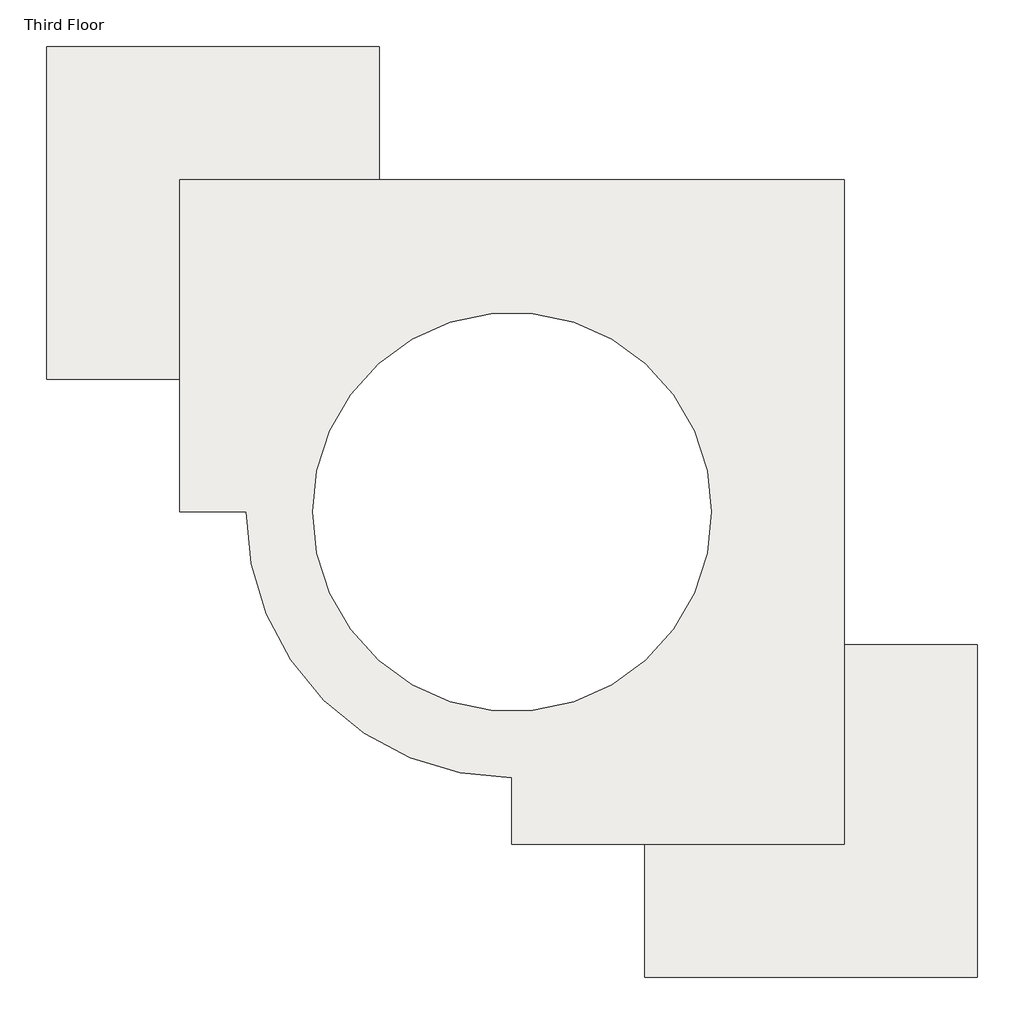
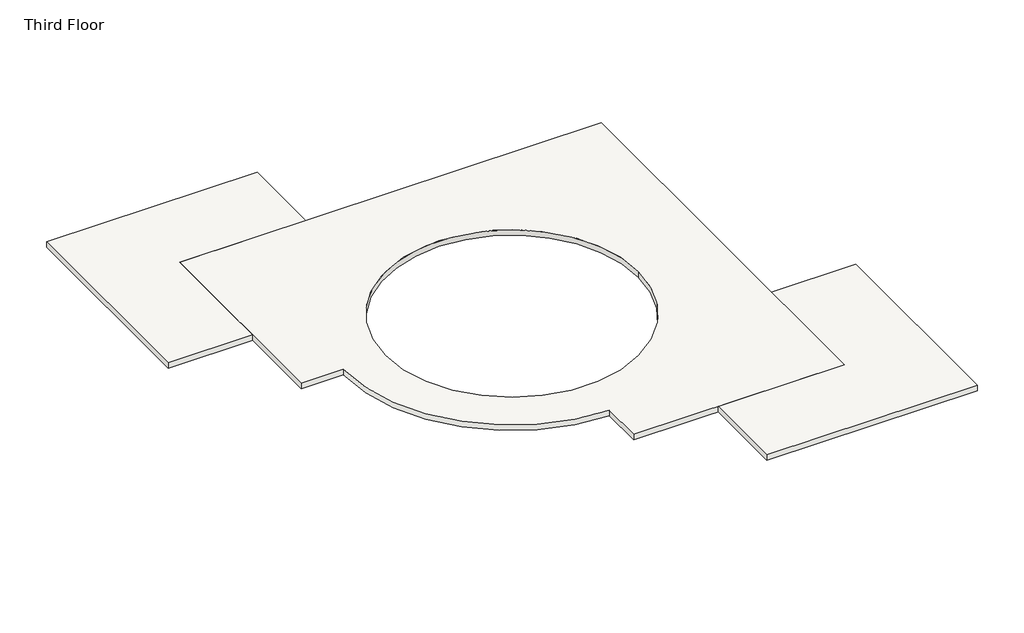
# One storey: 2 slabs.
"""IFC4 building model written with IfcOpenShell, lengths in millimetres."""

import ifcopenshell
import ifcopenshell.guid

model = None  # the IFC model being written
_history = None  # IfcOwnerHistory: only IFC2X3 demands one
_inside = {}  # id of a spatial element -> (the spatial element, [elements in it])
_under = {}  # id of a project, library or spatial element -> (it, [spatial elements below it])
_declared = {}  # id of a project -> (the project, [libraries it declares])
_typed = {}  # id of a type object -> (the type object, [elements of that type])
_made_of = {}  # id of a material, layer set ... -> (it, [elements and type objects made of it])


def new_model(schema):
    """Start an empty IFC model of exactly this schema.

    Asked for "IFC4X3", IfcOpenShell would pick the latest addendum, in which some entities
    have other attributes; the version numbers below select the first issue.
    IFC2X3 requires an IfcOwnerHistory on every rooted entity: one is made here for all.
    """
    global model, _history
    if schema == "IFC4X3":
        model = ifcopenshell.file(schema_version=(4, 3, 0, 0))
    else:
        model = ifcopenshell.file(schema=schema)
    _inside.clear()
    _under.clear()
    _declared.clear()
    _typed.clear()
    _made_of.clear()
    _history = None
    if model.schema == "IFC2X3":
        org = make("IfcOrganization", Name="unknown")
        user = make(
            "IfcPersonAndOrganization",
            ThePerson=make("IfcPerson", FamilyName="unknown"),
            TheOrganization=org,
        )
        app = make(
            "IfcApplication",
            ApplicationDeveloper=org,
            Version="unknown",
            ApplicationFullName="unknown",
            ApplicationIdentifier="unknown",
        )
        _history = make(
            "IfcOwnerHistory",
            OwningUser=user,
            OwningApplication=app,
            ChangeAction="ADDED",
            CreationDate=0,
        )
    return model


def make(cls, **values):
    """One entity of the class cls with the attributes given. An attribute that is None is left unset."""
    return model.create_entity(
        cls, **{name: value for name, value in values.items() if value is not None}
    )


def rooted(cls, **values):
    """An entity with a GlobalId (a new one), such as an element, a storey or a relation."""
    return make(cls, GlobalId=ifcopenshell.guid.new(), OwnerHistory=_history, **values)


def si_unit(unit_type, name, prefix=None):
    """IfcSIUnit, for example si_unit("LENGTHUNIT", "METRE", prefix="MILLI")."""
    return make("IfcSIUnit", UnitType=unit_type, Prefix=prefix, Name=name)


def assignment(units):
    """IfcUnitAssignment: the units of a project."""
    return None if units is None else make("IfcUnitAssignment", Units=units)


def point(xyz):
    """IfcCartesianPoint."""
    return None if xyz is None else make("IfcCartesianPoint", Coordinates=xyz)


def direction(xyz):
    """IfcDirection."""
    return None if xyz is None else make("IfcDirection", DirectionRatios=xyz)


def frame(location, z_axis=None, x_axis=None):
    """IfcAxis2Placement3D, a coordinate frame: its origin and axes. An axis left out is left unset."""
    return make(
        "IfcAxis2Placement3D",
        Location=point(location),
        Axis=direction(z_axis),
        RefDirection=direction(x_axis),
    )


def frame_2d(location, x_axis=None):
    """IfcAxis2Placement2D, a coordinate frame in the plane: its origin and x axis."""
    return make(
        "IfcAxis2Placement2D", Location=point(location), RefDirection=direction(x_axis)
    )


def origin():
    """The frame at (0, 0, 0) with its axes left unset."""
    return frame((0.0, 0.0, 0.0))


def place(relative_to, where):
    """IfcLocalPlacement: puts the frame where relative to a parent placement (None: the world)."""
    return make(
        "IfcLocalPlacement", PlacementRelTo=relative_to, RelativePlacement=where
    )


def context(
    kind, dimensions, precision=None, world=None, true_north=None, identifier=None
):
    """IfcGeometricRepresentationContext, for example the 3D "Model" context."""
    return make(
        "IfcGeometricRepresentationContext",
        ContextIdentifier=identifier,
        ContextType=kind,
        CoordinateSpaceDimension=dimensions,
        Precision=precision,
        WorldCoordinateSystem=world,
        TrueNorth=true_north,
    )


def project(units=None, contexts=None):
    """IfcProject with its units and contexts."""
    return rooted(
        "IfcProject",
        Name="project",
        RepresentationContexts=contexts,
        UnitsInContext=assignment(units),
    )


def spatial(cls, under=None, at=None, **own):
    """A site, building, storey or space (cls), placed at a placement, below another one or the project."""
    s = rooted(cls, ObjectPlacement=at, **own)
    if under is not None:
        _under.setdefault(under.id(), (under, []))[1].append(s)
    return s


def polyline(points):
    """IfcPolyline through the points."""
    return make("IfcPolyline", Points=[point(p) for p in points])


def circle_curve(where, radius):
    """IfcCircle in the frame where."""
    return make("IfcCircle", Position=where, Radius=radius)


def trimmed(basis, trim1, trim2, sense, master):
    """IfcTrimmedCurve: the piece of a basis curve between two trims."""
    return make(
        "IfcTrimmedCurve",
        BasisCurve=basis,
        Trim1=trim1,
        Trim2=trim2,
        SenseAgreement=sense,
        MasterRepresentation=master,
    )


def segment(curve, same_sense, transition):
    """IfcCompositeCurveSegment."""
    return make(
        "IfcCompositeCurveSegment",
        Transition=transition,
        SameSense=same_sense,
        ParentCurve=curve,
    )


def composite_curve(segments, self_intersect=None):
    """IfcCompositeCurve: segments joined end to end."""
    return make("IfcCompositeCurve", Segments=segments, SelfIntersect=self_intersect)


def outline(outer, holes=None, kind="AREA"):
    """IfcArbitraryClosedProfileDef: a profile drawn as a closed curve; with holes, ...WithVoids."""
    if holes is None:
        return make("IfcArbitraryClosedProfileDef", ProfileType=kind, OuterCurve=outer)
    return make(
        "IfcArbitraryProfileDefWithVoids",
        ProfileType=kind,
        OuterCurve=outer,
        InnerCurves=holes,
    )


def extrude(swept, where, along, depth):
    """IfcExtrudedAreaSolid: the profile swept, set in the frame where, extruded along a direction by depth."""
    return make(
        "IfcExtrudedAreaSolid",
        SweptArea=swept,
        Position=where,
        ExtrudedDirection=direction(along),
        Depth=depth,
    )


def shape(context_of_items, identifier, shape_type, items):
    """IfcShapeRepresentation: the items that make up one representation, for example the "Body"."""
    return make(
        "IfcShapeRepresentation",
        ContextOfItems=context_of_items,
        RepresentationIdentifier=identifier,
        RepresentationType=shape_type,
        Items=items,
    )


def made_of(thing, what):
    """Note that an element or type object is made of a material, layer set ...; save() writes the relation."""
    if what is not None:
        _made_of.setdefault(what.id(), (what, []))[1].append(thing)
    return thing


def element(
    cls,
    number,
    at=None,
    inside=None,
    cuts=None,
    type_object=None,
    material=None,
    context=None,
    identifier="Body",
    shape_type=None,
    held_by="IfcProductDefinitionShape",
    body=None,
    shapes=None,
    **own,
):
    """One element of the class cls, such as IfcWall. Its Tag is "e" and its number.

    at: its placement. inside: the storey or other place that contains it. cuts: it is an
    opening in that element (IfcRelVoidsElement). A single representation is given by context,
    identifier, shape_type and body (its items); several are given by shapes. held_by: the class
    of the entity that holds the representations. save() writes the other relations.
    """
    e = rooted(cls, Tag="e%d" % number, ObjectPlacement=at, **own)
    if body is not None:
        shapes = [shape(context, identifier, shape_type, body)]
    if shapes is not None:
        e.Representation = make(held_by, Representations=shapes)
    if inside is not None:
        _inside.setdefault(inside.id(), (inside, []))[1].append(e)
    if cuts is not None:
        rooted(
            "IfcRelVoidsElement", RelatingBuildingElement=cuts, RelatedOpeningElement=e
        )
    if type_object is not None:
        _typed.setdefault(type_object.id(), (type_object, []))[1].append(e)
    return made_of(e, material)


def aggregate(whole, parts):
    """IfcRelAggregates: a whole, such as a stair, and the parts it consists of."""
    return rooted("IfcRelAggregates", RelatingObject=whole, RelatedObjects=parts)


def save(model, path):
    """Write the relations noted so far, then the file.

    IfcRelAggregates (storeys below a building ...), IfcRelContainedInSpatialStructure (elements
    in a storey), IfcRelDefinesByType, IfcRelAssociatesMaterial and IfcRelDeclares: one each for
    every whole, place, type object, material and project.
    """
    for whole, parts in _under.values():
        aggregate(whole, parts)
    for where, things in _inside.values():
        rooted(
            "IfcRelContainedInSpatialStructure",
            RelatedElements=things,
            RelatingStructure=where,
        )
    for kind, things in _typed.values():
        rooted("IfcRelDefinesByType", RelatedObjects=things, RelatingType=kind)
    for what, things in _made_of.values():
        rooted("IfcRelAssociatesMaterial", RelatedObjects=things, RelatingMaterial=what)
    for by, libraries in _declared.values():
        rooted("IfcRelDeclares", RelatingContext=by, RelatedDefinitions=libraries)
    model.write(path)


model = new_model("IFC4")

# Units and contexts
model_context = context("Model", 3, world=origin())
ifc_project = project(units=[si_unit("LENGTHUNIT", "METRE", prefix="MILLI")], contexts=[model_context])

# Site, building, storey
site = spatial("IfcSite", under=ifc_project)
building = spatial("IfcBuilding", under=site)
storey = spatial("IfcBuildingStorey", under=building, Name="Third Floor", Elevation=6096.0)

# Slabs
placement = place(None, origin())
element("IfcSlab", 1, ObjectType="160mm Concrete With 50mm Metal Deck", at=placement, inside=storey, context=model_context, shape_type="SweptSolid", body=[
    extrude(outline(composite_curve([segment(polyline([(8463.0350085, 7792.852658), (8463.0350085, -7447.147342), (843.0350085, -7447.147342), (843.0350085, -5923.147342)]), True, "CONTINUOUS"), segment(trimmed(circle_curve(frame_2d((843.0350085, 172.852658)), 6096.0), [point((843.0350085, -5923.147342))], [point((-5252.9649915, 172.852658))], False, "CARTESIAN"), True, "CONTINUOUS"), segment(polyline([(-5252.9649915, 172.852658), (-6776.9649915, 172.852658), (-6776.9649915, 7792.852658), (8463.0350085, 7792.852658)]), True, "CONTINUOUS")], self_intersect=False), holes=[composite_curve([segment(trimmed(circle_curve(frame_2d((843.0350085, 172.852658)), 4572.0), [point((5415.0350085, 172.852658))], [point((-3728.9649915, 172.852658))], True, "CARTESIAN"), True, "CONTINUOUS"), segment(trimmed(circle_curve(frame_2d((843.0350085, 172.852658)), 4572.0), [point((-3728.9649915, 172.852658))], [point((5415.0350085, 172.852658))], True, "CARTESIAN"), True, "CONTINUOUS")], self_intersect=False)]), frame((0.0, 0.0, 5886.0), z_axis=(0.0, 0.0, 1.0), x_axis=(1.0, 0.0, 0.0)), (0.0, 0.0, 1.0), 210.0),
])
element("IfcSlab", 2, ObjectType="160mm Concrete With 50mm Metal Deck", at=placement, inside=storey, context=model_context, shape_type="SweptSolid", body=[
    extrude(outline(polyline([(-2204.9649915, 7792.852658), (-6776.9649915, 7792.852658), (-6776.9649915, 3220.852658), (-9824.9649915, 3220.852658), (-9824.9649915, 10840.852658), (-2204.9649915, 10840.852658), (-2204.9649915, 7792.852658)])), frame((0.0, 0.0, 5886.0), z_axis=(0.0, 0.0, 1.0), x_axis=(1.0, 0.0, 0.0)), (0.0, 0.0, 1.0), 210.0),
    extrude(outline(polyline([(8463.0350085, -2875.147342), (11511.0350085, -2875.147342), (11511.0350085, -10495.147342), (3891.0350085, -10495.147342), (3891.0350085, -7447.147342), (8463.0350085, -7447.147342), (8463.0350085, -2875.147342)])), frame((0.0, 0.0, 5886.0), z_axis=(0.0, 0.0, 1.0), x_axis=(1.0, 0.0, 0.0)), (0.0, 0.0, 1.0), 210.0),
])

save(model, "model.ifc")
